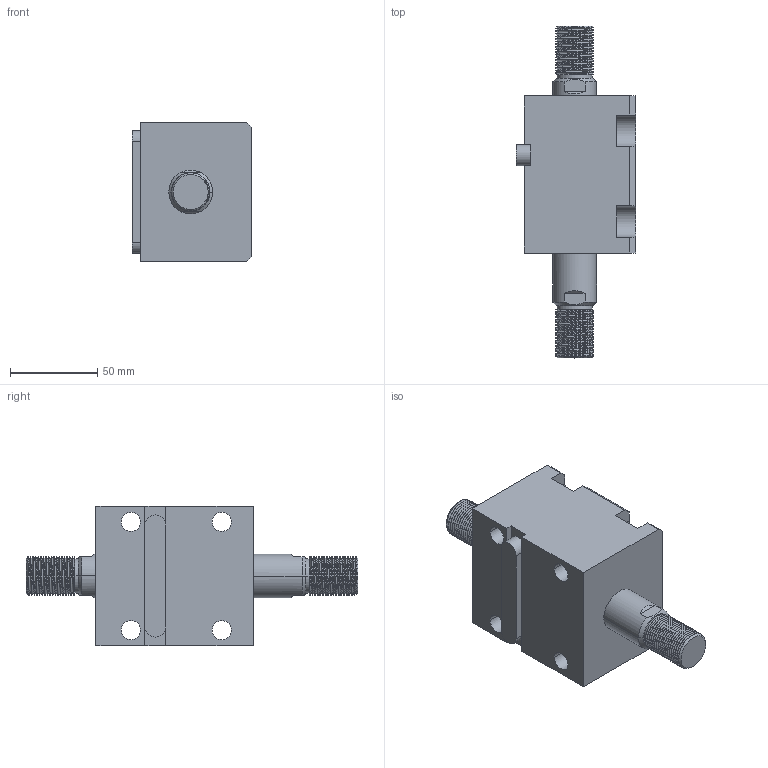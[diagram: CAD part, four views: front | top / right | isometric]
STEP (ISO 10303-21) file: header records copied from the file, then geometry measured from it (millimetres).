
FILE_DESCRIPTION (( 'STEP AP214' ), '1' );
FILE_NAME ('chtb-lw40x20w_asm.STEP', '2018-06-04T06:35:45', ( 'Windows' ), ( 'Microsoft' ), 'SwSTEP 2.0', 'SolidWorks 2015', '' );
FILE_SCHEMA (( 'AUTOMOTIVE_DESIGN' ));
Length unit declared in the file: millimetre
Products named in the file (5): CHTB-SW40X20NHSG; CHTB-SD40QG; CHTB-LW40X20NBT; CHTB-LA40PJ; chtb-lw40x20w_asm
Assembly tree (4 placements, depth 2):
  chtb-lw40x20w_asm
    CHTB-LA40PJ
    CHTB-LW40X20NBT
    CHTB-SD40QG
    CHTB-SW40X20NHSG
Bounding box: 68.5 x 190 x 80 mm (x, y, z)
Volume: 450201 mm3; surface area: 88521.6 mm2
Topology: 4 solids, 4 shells, 258 faces, 711 edges, 473 vertices
Faces by surface type: cylinder 152, plane 59, bspline 18, cone 17, torus 12
Entity records: 17539 total; most frequent: CARTESIAN_POINT 11292, ORIENTED_EDGE 1410, DIRECTION 1124, EDGE_CURVE 705, VERTEX_POINT 473, AXIS2_PLACEMENT_3D 433, EDGE_LOOP 292, LINE 258
